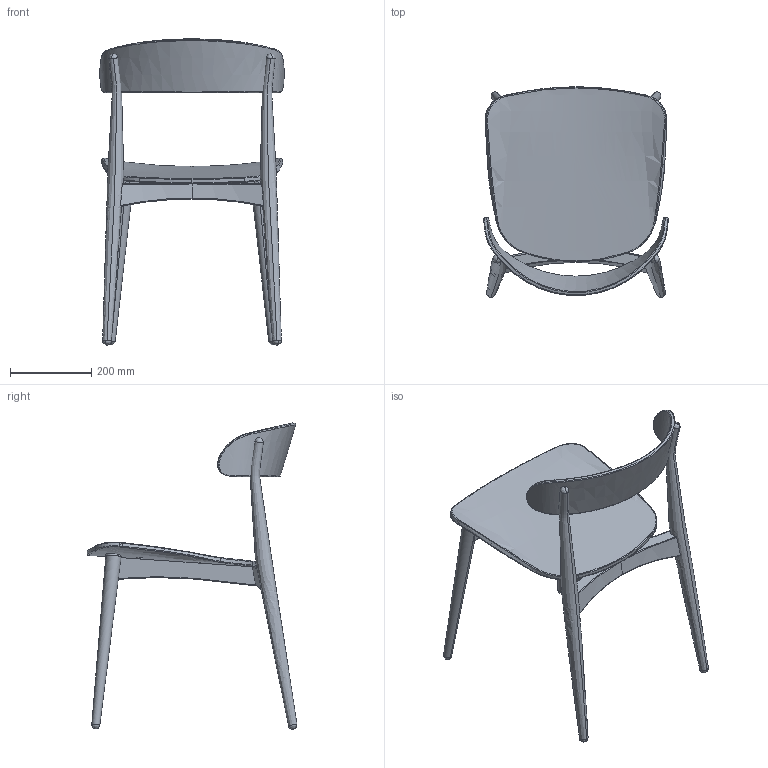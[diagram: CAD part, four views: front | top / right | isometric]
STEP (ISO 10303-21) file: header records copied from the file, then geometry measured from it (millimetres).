
FILE_DESCRIPTION(/* description */ (''),/* implementation_level */ '2;1');
FILE_NAME(/* name */ 'Pure Silla - Asiento Madera',/* time_stamp */ '2019-05-08T09:28:51+02:00',/* author */ (''),/* organization */ (''),/* preprocessor_version */ 'ST-DEVELOPER v10',/* originating_system */ '',/* authorisation */ '');
FILE_SCHEMA (('CONFIG_CONTROL_DESIGN'));
Length unit declared in the file: millimetre
Products named in the file (1): 1
Bounding box: 454.06 x 517.36 x 754.4 mm (x, y, z)
Volume: 6065015.3 mm3; surface area: 952448.9 mm2
Topology: 18 solids, 18 shells, 259 faces, 654 edges, 427 vertices
Faces by surface type: bspline 215, plane 44
Entity records: 112030 total; most frequent: CARTESIAN_POINT 108155, ORIENTED_EDGE 1300, EDGE_CURVE 650, VERTEX_POINT 427, B_SPLINE_CURVE_WITH_KNOTS 425, ADVANCED_FACE 259, FACE_OUTER_BOUND 259, EDGE_LOOP 259
